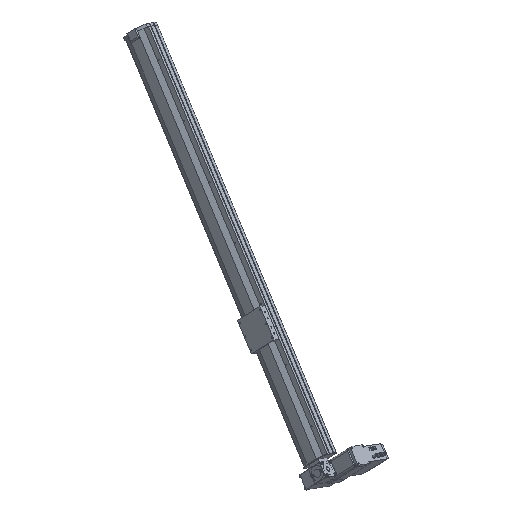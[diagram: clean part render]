
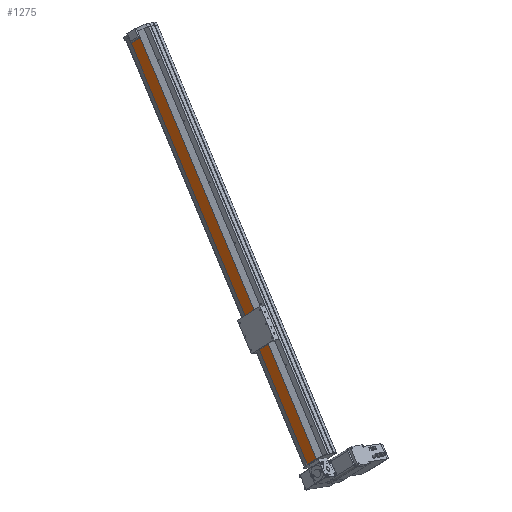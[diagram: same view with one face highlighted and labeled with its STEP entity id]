
A CAD part, left-side view. The second image highlights one B-rep face of the part: STEP entity #1275.
In plain terms, the highlighted planar face has unit normal (-0.763, 0.639, -0.102) as drawn and (0, 1, 0) by its records, which use the part's own axes.
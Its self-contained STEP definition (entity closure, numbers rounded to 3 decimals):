
#574 = VERTEX_POINT ( 'NONE', #22818 ) ;
#578 = VERTEX_POINT ( 'NONE', #22796 ) ;
#586 = EDGE_CURVE ( 'NONE', #574, #578, #22837, .T. ) ;
#1253 = ORIENTED_EDGE ( 'NONE', *, *, #1273, .F. ) ;
#1254 = EDGE_CURVE ( 'NONE', #1276, #1274, #24001, .T. ) ;
#1255 = ORIENTED_EDGE ( 'NONE', *, *, #1254, .F. ) ;
#1256 = EDGE_CURVE ( 'NONE', #1276, #574, #24052, .T. ) ;
#1257 = ORIENTED_EDGE ( 'NONE', *, *, #1256, .T. ) ;
#1270 = EDGE_CURVE ( 'NONE', #578, #1289, #24039, .T. ) ;
#1273 = EDGE_CURVE ( 'NONE', #1274, #1289, #24031, .T. ) ;
#1274 = VERTEX_POINT ( 'NONE', #24083 ) ;
#1275 = ADVANCED_FACE ( 'NONE', ( #24028 ), #24081, .F. ) ;
#1276 = VERTEX_POINT ( 'NONE', #24077 ) ;
#1277 = ORIENTED_EDGE ( 'NONE', *, *, #1270, .T. ) ;
#1278 = ORIENTED_EDGE ( 'NONE', *, *, #586, .T. ) ;
#1281 = EDGE_LOOP ( 'NONE', ( #1277, #1253, #1255, #1257, #1278 ) ) ;
#1289 = VERTEX_POINT ( 'NONE', #24059 ) ;
#22796 = CARTESIAN_POINT ( 'NONE',  ( 20., 61.75, 0. ) ) ;
#22818 = CARTESIAN_POINT ( 'NONE',  ( 20., 61.75, 5.114 ) ) ;
#22834 = DIRECTION ( 'NONE',  ( 0., 0., -1. ) ) ;
#22835 = VECTOR ( 'NONE', #22834, 1000. ) ;
#22836 = CARTESIAN_POINT ( 'NONE',  ( 20., 61.75, 1400. ) ) ;
#22837 = LINE ( 'NONE', #22836, #22835 ) ;
#24000 = CARTESIAN_POINT ( 'NONE',  ( 20., 61.75, 1400. ) ) ;
#24001 = LINE ( 'NONE', #24000, #24054 ) ;
#24026 = DIRECTION ( 'NONE',  ( -1., 0., 0. ) ) ;
#24027 = CARTESIAN_POINT ( 'NONE',  ( 20., 61.75, 0. ) ) ;
#24028 = FACE_OUTER_BOUND ( 'NONE', #1281, .T. ) ;
#24029 = DIRECTION ( 'NONE',  ( 0., -1., 0. ) ) ;
#24030 = CARTESIAN_POINT ( 'NONE',  ( -20., 61.75, 1400. ) ) ;
#24031 = LINE ( 'NONE', #24030, #24080 ) ;
#24038 = AXIS2_PLACEMENT_3D ( 'NONE', #24082, #24029, #24075 ) ;
#24039 = LINE ( 'NONE', #24027, #24084 ) ;
#24049 = DIRECTION ( 'NONE',  ( 0., 0., -1. ) ) ;
#24050 = VECTOR ( 'NONE', #24049, 1000. ) ;
#24051 = CARTESIAN_POINT ( 'NONE',  ( 20., 61.75, 1400. ) ) ;
#24052 = LINE ( 'NONE', #24051, #24050 ) ;
#24053 = DIRECTION ( 'NONE',  ( -1., 0., 0. ) ) ;
#24054 = VECTOR ( 'NONE', #24053, 1000. ) ;
#24059 = CARTESIAN_POINT ( 'NONE',  ( -20., 61.75, 0. ) ) ;
#24075 = DIRECTION ( 'NONE',  ( 0., 0., -1. ) ) ;
#24077 = CARTESIAN_POINT ( 'NONE',  ( 20., 61.75, 1400. ) ) ;
#24079 = DIRECTION ( 'NONE',  ( 0., 0., -1. ) ) ;
#24080 = VECTOR ( 'NONE', #24079, 1000. ) ;
#24081 = PLANE ( 'NONE',  #24038 ) ;
#24082 = CARTESIAN_POINT ( 'NONE',  ( 20., 61.75, 1400. ) ) ;
#24083 = CARTESIAN_POINT ( 'NONE',  ( -20., 61.75, 1400. ) ) ;
#24084 = VECTOR ( 'NONE', #24026, 1000. ) ;
